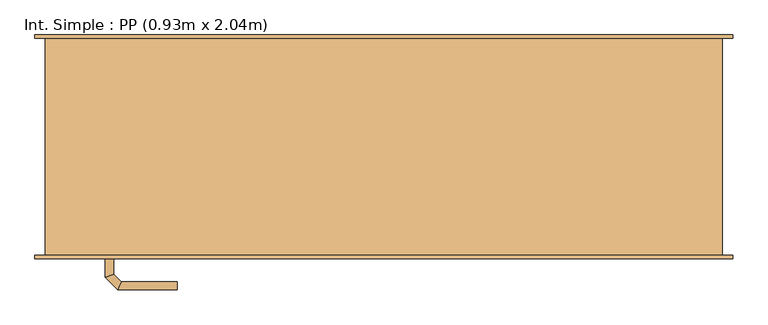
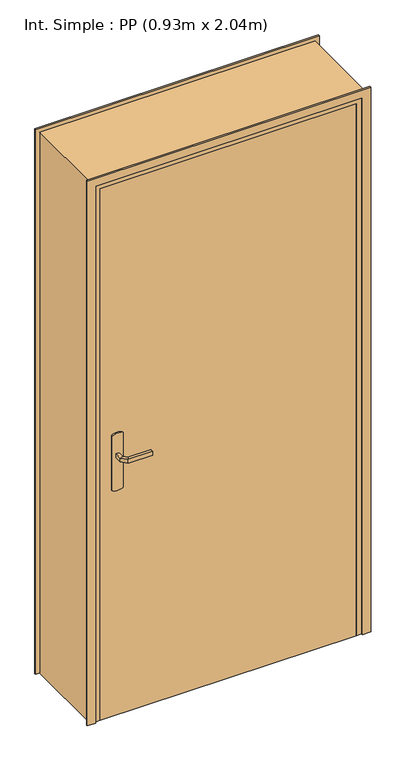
"""IFC4 building model written with IfcOpenShell, lengths in millimetres: door geometry, Int. Simple : PP (0.93m x 2.04m)."""

from ifc_helpers import new_model, si_unit, point, frame, frame_2d, origin, origin_with_axes, place, context, project, spatial, polyline, circle_curve, ellipse_curve, trimmed, segment, composite_curve, outline, extrude, faceted_brep, source, transform, mapped, element, save
from ifc_brep_helpers import plane_surface, cylinder_surface, advanced_brep


def int_simple_pp_0_93m_x_2_04m_d9fe3ddc(model_context):
    return source(origin(), model_context, "Body", "SolidModel", [
        extrude(outline(composite_curve([segment(trimmed(circle_curve(frame_2d((904.6410162, -440.0)), 40.0), [point((870.0, -460.0))], [point((870.0, -420.0))], False, "CARTESIAN"), True, "CONTINUOUS"), segment(polyline([(870.0, -420.0), (1080.0, -420.0)]), True, "CONTINUOUS"), segment(trimmed(circle_curve(frame_2d((1045.3589838, -440.0)), 40.0), [point((1080.0, -420.0))], [point((1080.0, -460.0))], False, "CARTESIAN"), True, "CONTINUOUS"), segment(polyline([(1080.0, -460.0), (870.0, -460.0)]), True, "CONTINUOUS")], self_intersect=False)), frame((0.0, -165.0, 0.0), z_axis=(0.0, 1.0, 0.0), x_axis=(0.0, 0.0, 1.0)), (0.0, 0.0, 1.0), 5.0),
        extrude(outline(composite_curve([segment(trimmed(circle_curve(frame_2d((1045.3589838, -440.0)), 40.0), [point((1080.0, -420.0))], [point((1080.0, -460.0))], False, "CARTESIAN"), True, "CONTINUOUS"), segment(polyline([(1080.0, -460.0), (870.0, -460.0)]), True, "CONTINUOUS"), segment(trimmed(circle_curve(frame_2d((904.6410162, -440.0)), 40.0), [point((870.0, -460.0))], [point((870.0, -420.0))], False, "CARTESIAN"), True, "CONTINUOUS"), segment(polyline([(870.0, -420.0), (1080.0, -420.0)]), True, "CONTINUOUS")], self_intersect=False)), frame((0.0, -120.0, 0.0), z_axis=(0.0, 1.0, 0.0), x_axis=(0.0, 0.0, 1.0)), (0.0, 0.0, 1.0), 5.0),
        advanced_brep(
        [(-446.0, -165.0, 1007.0), (-434.0, -165.0, 1007.0), (-434.0, -165.0, 993.0), (-446.0, -165.0, 993.0), (-446.0, -192.6509507, 1007.0), (-434.0, -187.680388, 1007.0), (-434.0, -187.680388, 993.0), (-446.0, -192.6509507, 993.0), (-427.62279, -211.0281607, 1007.0), (-422.6522273, -199.0281607, 1007.0), (-422.6522273, -199.0281607, 993.0), (-427.62279, -211.0281607, 993.0), (-339.9813594, -211.0281607, 1007.0), (-339.9813594, -211.0281607, 993.0), (-339.9813594, -199.0281607, 993.0), (-339.9813594, -199.0281607, 1007.0)],
        [
            (0, 1, circle_curve(frame((-440.0, -165.0, 986.9542278), z_axis=(0.0, 1.0, 0.0), x_axis=(1.0, 0.0, 0.0)), 20.9244589)),
            (1, 2),
            (2, 3, circle_curve(frame((-440.0, -165.0, 1013.0457722), z_axis=(0.0, 1.0, 0.0), x_axis=(1.0, 0.0, 0.0)), 20.9244589)),
            (3, 0),
            (0, 4),
            (4, 5, ellipse_curve(frame((-440.0, -190.1656693, 986.9542278), z_axis=(-0.3826834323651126, 0.9238795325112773, 0.0), x_axis=(0.9238795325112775, 0.38268343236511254, 0.0)), 22.6484711, 20.9244589)),
            (5, 1),
            (5, 6),
            (6, 2),
            (6, 7, ellipse_curve(frame((-440.0, -190.1656693, 1013.0457722), z_axis=(-0.3826834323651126, 0.9238795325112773, 0.0), x_axis=(0.9238795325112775, 0.38268343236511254, 0.0)), 22.6484711, 20.9244589)),
            (7, 3),
            (7, 4),
            (4, 8),
            (8, 9, ellipse_curve(frame((-425.1375086, -205.0281607, 986.9542278), z_axis=(-0.9238795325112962, 0.38268343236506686, 0.0), x_axis=(0.3826834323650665, 0.9238795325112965, 0.0)), 22.6484711, 20.9244589)),
            (9, 5),
            (9, 10),
            (10, 6),
            (10, 11, ellipse_curve(frame((-425.1375086, -205.0281607, 1013.0457722), z_axis=(-0.9238795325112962, 0.38268343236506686, 0.0), x_axis=(0.3826834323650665, 0.9238795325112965, 0.0)), 22.6484711, 20.9244589)),
            (11, 7),
            (11, 8),
            (12, 13),
            (13, 14, circle_curve(frame((-339.9813594, -205.0281607, 1013.0457722), z_axis=(1.0, 0.0, 0.0), x_axis=(0.0, 1.0, 0.0)), 20.9244589)),
            (14, 15),
            (15, 12, circle_curve(frame((-339.9813594, -205.0281607, 986.9542278), z_axis=(1.0, 0.0, 0.0), x_axis=(0.0, 1.0, 0.0)), 20.9244589)),
            (8, 12),
            (15, 9),
            (14, 10),
            (13, 11),
        ],
        [
            plane_surface(frame((-449.2195445, -165.0, 1000.0), z_axis=(0.0, 1.0, 0.0), x_axis=(0.0, 0.0, -1.0))),
            cylinder_surface(frame((-440.0, -165.0, 986.9542278), z_axis=(0.0, 1.0, 0.0), x_axis=(1.0, 0.0, 0.0)), 20.9244589),
            plane_surface(frame((-434.0, -165.0, 1007.0), z_axis=(1.0, 0.0, 0.0), x_axis=(0.0, -1.0, 0.0))),
            cylinder_surface(frame((-440.0, -165.0, 1013.0457722), z_axis=(0.0, 1.0, 0.0), x_axis=(1.0, 0.0, 0.0)), 20.9244589),
            plane_surface(frame((-446.0, -165.0, 993.0), z_axis=(-1.0, 0.0, 0.0), x_axis=(0.0, -1.0, 0.0))),
            cylinder_surface(frame((-440.0, -190.1656693, 986.9542278), z_axis=(-0.7071067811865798, 0.7071067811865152, 0.0), x_axis=(0.7071067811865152, 0.7071067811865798, 0.0)), 20.9244589),
            plane_surface(frame((-434.0, -187.680388, 1007.0), z_axis=(0.7071067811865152, 0.7071067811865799, 0.0), x_axis=(0.7071067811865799, -0.7071067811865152, 0.0))),
            cylinder_surface(frame((-440.0, -190.1656693, 1013.0457722), z_axis=(-0.7071067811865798, 0.7071067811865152, 0.0), x_axis=(0.7071067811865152, 0.7071067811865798, 0.0)), 20.9244589),
            plane_surface(frame((-446.0, -192.6509507, 993.0), z_axis=(-0.7071067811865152, -0.7071067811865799, 0.0), x_axis=(0.7071067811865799, -0.7071067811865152, 0.0))),
            plane_surface(frame((-339.9813594, -205.0281607, 990.7804555), z_axis=(1.0, 0.0, 0.0), x_axis=(0.0, 1.0, 0.0))),
            cylinder_surface(frame((-425.1375086, -205.0281607, 986.9542278), z_axis=(-1.0, 0.0, 0.0), x_axis=(0.0, 1.0, 0.0)), 20.9244589),
            plane_surface(frame((-422.6522273, -199.0281607, 1007.0), z_axis=(0.0, 1.0, 0.0), x_axis=(1.0, 0.0, 0.0))),
            cylinder_surface(frame((-425.1375086, -205.0281607, 1013.0457722), z_axis=(-1.0, 0.0, 0.0), x_axis=(0.0, 1.0, 0.0)), 20.9244589),
            plane_surface(frame((-427.62279, -211.0281607, 993.0), z_axis=(0.0, -1.0, 0.0), x_axis=(1.0, 0.0, 0.0))),
        ],
        [
            (0, [[1, 2, 3, 4]]),
            (1, [[-1, 5, 6, 7]]),
            (2, [[-2, -7, 8, 9]]),
            (3, [[-3, -9, 10, 11]]),
            (4, [[-4, -11, 12, -5]]),
            (5, [[-6, 13, 14, 15]]),
            (6, [[-8, -15, 16, 17]]),
            (7, [[-10, -17, 18, 19]]),
            (8, [[-12, -19, 20, -13]]),
            (9, [[21, 22, 23, 24]]),
            (10, [[-14, 25, -24, 26]]),
            (11, [[-16, -26, -23, 27]]),
            (12, [[-18, -27, -22, 28]]),
            (13, [[-20, -28, -21, -25]]),
        ],
    ),
        advanced_brep(
        [(-434.0, -115.0, 993.0), (-434.0, -115.0, 1007.0), (-446.0, -115.0, 1007.0), (-446.0, -115.0, 993.0), (-434.0, -92.5147955, 993.0), (-434.0, -92.5147955, 1007.0), (-446.0, -87.5442327, 1007.0), (-446.0, -87.5442327, 993.0), (-422.5147186, -81.0295141, 993.0), (-422.5147186, -81.0295141, 1007.0), (-427.4852814, -69.0295141, 1007.0), (-427.4852814, -69.0295141, 993.0), (-339.9542163, -81.0295141, 993.0), (-339.9542163, -69.0295141, 993.0), (-339.9542163, -69.0295141, 1007.0), (-339.9542163, -81.0295141, 1007.0)],
        [
            (0, 1),
            (1, 2, circle_curve(frame((-440.0, -115.0, 986.9542278), z_axis=(0.0, -1.0, 0.0), x_axis=(-1.0, 0.0, 0.0)), 20.9244589)),
            (2, 3),
            (3, 0, circle_curve(frame((-440.0, -115.0, 1013.0457722), z_axis=(0.0, -1.0, 0.0), x_axis=(-1.0, 0.0, 0.0)), 20.9244589)),
            (0, 4),
            (4, 5),
            (5, 1),
            (5, 6, ellipse_curve(frame((-440.0, -90.0295141, 986.9542278), z_axis=(-0.3826834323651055, -0.9238795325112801, 0.0), x_axis=(0.9238795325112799, -0.3826834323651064, 0.0)), 22.6484711, 20.9244589)),
            (6, 2),
            (6, 7),
            (7, 3),
            (7, 4, ellipse_curve(frame((-440.0, -90.0295141, 1013.0457722), z_axis=(-0.3826834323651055, -0.9238795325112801, 0.0), x_axis=(0.9238795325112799, -0.3826834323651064, 0.0)), 22.6484711, 20.9244589)),
            (4, 8),
            (8, 9),
            (9, 5),
            (9, 10, ellipse_curve(frame((-425.0, -75.0295141, 986.9542278), z_axis=(-0.9238795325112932, -0.382683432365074, 0.0), x_axis=(0.3826834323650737, -0.9238795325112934, 0.0)), 22.6484711, 20.9244589)),
            (10, 6),
            (10, 11),
            (11, 7),
            (11, 8, ellipse_curve(frame((-425.0, -75.0295141, 1013.0457722), z_axis=(-0.9238795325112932, -0.382683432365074, 0.0), x_axis=(0.3826834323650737, -0.9238795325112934, 0.0)), 22.6484711, 20.9244589)),
            (12, 13, circle_curve(frame((-339.9542163, -75.0295141, 1013.0457722), z_axis=(1.0, 0.0, 0.0), x_axis=(0.0, 1.0, 0.0)), 20.9244589)),
            (13, 14),
            (14, 15, circle_curve(frame((-339.9542163, -75.0295141, 986.9542278), z_axis=(1.0, 0.0, 0.0), x_axis=(0.0, 1.0, 0.0)), 20.9244589)),
            (15, 12),
            (8, 12),
            (15, 9),
            (14, 10),
            (13, 11),
        ],
        [
            plane_surface(frame((-449.2195445, -115.0, 1000.0), z_axis=(0.0, -1.0, 0.0), x_axis=(0.0, 0.0, 1.0))),
            plane_surface(frame((-434.0, -115.0, 993.0), z_axis=(1.0, 0.0, 0.0), x_axis=(0.0, 1.0, 0.0))),
            cylinder_surface(frame((-440.0, -115.0, 986.9542278), z_axis=(0.0, -1.0, 0.0), x_axis=(-1.0, 0.0, 0.0)), 20.9244589),
            plane_surface(frame((-446.0, -115.0, 1007.0), z_axis=(-1.0, 0.0, 0.0), x_axis=(0.0, 1.0, 0.0))),
            cylinder_surface(frame((-440.0, -115.0, 1013.0457722), z_axis=(0.0, -1.0, 0.0), x_axis=(-1.0, 0.0, 0.0)), 20.9244589),
            plane_surface(frame((-434.0, -92.5147955, 993.0), z_axis=(0.7071067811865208, -0.7071067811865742, 0.0), x_axis=(0.7071067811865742, 0.7071067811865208, 0.0))),
            cylinder_surface(frame((-440.0, -90.0295141, 986.9542278), z_axis=(-0.7071067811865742, -0.7071067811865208, 0.0), x_axis=(-0.7071067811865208, 0.7071067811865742, 0.0)), 20.9244589),
            plane_surface(frame((-446.0, -87.5442327, 1007.0), z_axis=(-0.7071067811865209, 0.7071067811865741, 0.0), x_axis=(0.7071067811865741, 0.7071067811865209, 0.0))),
            cylinder_surface(frame((-440.0, -90.0295141, 1013.0457722), z_axis=(-0.7071067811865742, -0.7071067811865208, 0.0), x_axis=(-0.7071067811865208, 0.7071067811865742, 0.0)), 20.9244589),
            plane_surface(frame((-339.9542163, -75.0295141, 990.7804555), z_axis=(1.0, 0.0, 0.0), x_axis=(0.0, 1.0, 0.0))),
            plane_surface(frame((-422.5147186, -81.0295141, 993.0), z_axis=(0.0, -1.0, 0.0), x_axis=(1.0, 0.0, 0.0))),
            cylinder_surface(frame((-425.0, -75.0295141, 986.9542278), z_axis=(-1.0, 0.0, 0.0), x_axis=(0.0, 1.0, 0.0)), 20.9244589),
            plane_surface(frame((-427.4852814, -69.0295141, 1007.0), z_axis=(0.0, 1.0, 0.0), x_axis=(1.0, 0.0, 0.0))),
            cylinder_surface(frame((-425.0, -75.0295141, 1013.0457722), z_axis=(-1.0, 0.0, 0.0), x_axis=(0.0, 1.0, 0.0)), 20.9244589),
        ],
        [
            (0, [[1, 2, 3, 4]]),
            (1, [[-1, 5, 6, 7]]),
            (2, [[-2, -7, 8, 9]]),
            (3, [[-3, -9, 10, 11]]),
            (4, [[-4, -11, 12, -5]]),
            (5, [[-6, 13, 14, 15]]),
            (6, [[-8, -15, 16, 17]]),
            (7, [[-10, -17, 18, 19]]),
            (8, [[-12, -19, 20, -13]]),
            (9, [[21, 22, 23, 24]]),
            (10, [[-14, 25, -24, 26]]),
            (11, [[-16, -26, -23, 27]]),
            (12, [[-18, -27, -22, 28]]),
            (13, [[-20, -28, -21, -25]]),
        ],
    ),
        extrude(outline(polyline([(-500.0, -120.0), (430.0, -120.0), (430.0, -160.0), (-500.0, -160.0), (-500.0, -120.0)])), origin_with_axes(), (0.0, 0.0, 1.0), 2040.0),
        faceted_brep([(-535.0, -160.0, 0.0), (-535.0, 160.0, 0.0), (-485.0, 160.0, 0.0), (-485.0, -120.0, 0.0), (-500.0, -120.0, 0.0), (-500.0, -160.0, 0.0), (-535.0, -160.0, 2075.0), (-535.0, 160.0, 2075.0), (465.0, 160.0, 2075.0), (465.0, 160.0, 0.0), (415.0, 160.0, 0.0), (415.0, 160.0, 2025.0), (-485.0, 160.0, 2025.0), (-485.0, -120.0, 2025.0), (415.0, -120.0, 2025.0), (415.0, -120.0, 0.0), (430.0, -120.0, 0.0), (430.0, -120.0, 2040.0), (-500.0, -120.0, 2040.0), (-500.0, -160.0, 2040.0), (430.0, -160.0, 2040.0), (430.0, -160.0, 0.0), (465.0, -160.0, 0.0), (465.0, -160.0, 2075.0)], [[[0, 1, 2, 3, 4, 5]], [[1, 0, 6, 7]], [[2, 1, 7, 8, 9, 10, 11, 12]], [[3, 2, 12, 13]], [[4, 3, 13, 14, 15, 16, 17, 18]], [[5, 4, 18, 19]], [[0, 5, 19, 20, 21, 22, 23, 6]], [[8, 23, 22, 9]], [[22, 21, 16, 15, 10, 9]], [[14, 11, 10, 15]], [[20, 17, 16, 21]], [[7, 6, 23, 8]], [[13, 12, 11, 14]], [[19, 18, 17, 20]]]),
        extrude(outline(polyline([(0.0, -550.0), (0.0, -520.0), (2060.0, -520.0), (2060.0, 450.0), (0.0, 450.0), (0.0, 480.0), (2090.0, 480.0), (2090.0, -550.0), (0.0, -550.0)])), frame((0.0, -165.0, 0.0), z_axis=(0.0, 1.0, 0.0), x_axis=(0.0, 0.0, 1.0)), (0.0, 0.0, 1.0), 5.0),
        extrude(outline(polyline([(0.0, -550.0), (0.0, -520.0), (2060.0, -520.0), (2060.0, 450.0), (0.0, 450.0), (0.0, 480.0), (2090.0, 480.0), (2090.0, -550.0), (0.0, -550.0)])), frame((0.0, 160.0, 0.0), z_axis=(0.0, 1.0, 0.0), x_axis=(0.0, 0.0, 1.0)), (0.0, 0.0, 1.0), 5.0),
    ])


if __name__ == "__main__":
    model = new_model("IFC4")
    model_context = context("Model", 3, world=origin())
    ifc_project = project(units=[si_unit("LENGTHUNIT", "METRE", prefix="MILLI")], contexts=[model_context])
    site = spatial("IfcSite", under=ifc_project)
    building = spatial("IfcBuilding", under=site)
    placement = place(None, origin())
    int_simple_pp_0_93m_x_2_04m_shape = int_simple_pp_0_93m_x_2_04m_d9fe3ddc(model_context)
    element("IfcDoor", 1, ObjectType="Int. Simple : PP (0.93m x 2.04m)", at=placement, inside=building, context=model_context, shape_type="MappedRepresentation", body=[
        mapped(int_simple_pp_0_93m_x_2_04m_shape, transform((0.0, 0.0, 0.0), x_axis=(1.0, 0.0, 0.0), y_axis=(0.0, 1.0, 0.0), z_axis=(0.0, 0.0, 1.0))),
    ])
    save(model, "model.ifc")
